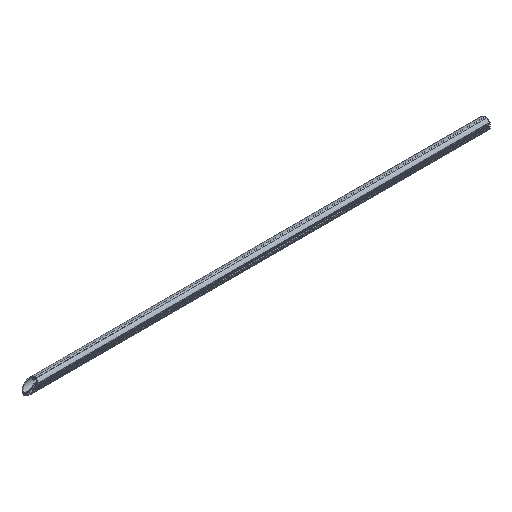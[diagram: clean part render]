
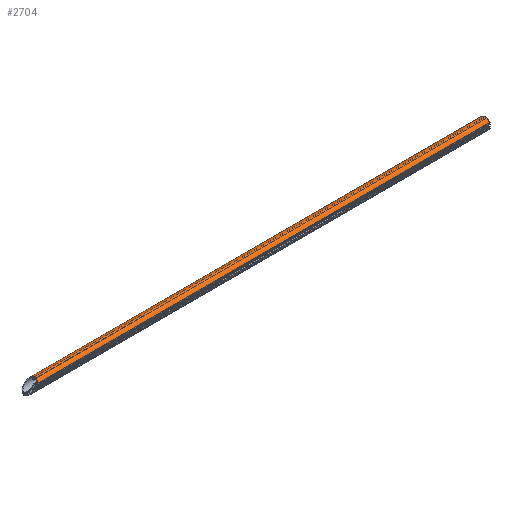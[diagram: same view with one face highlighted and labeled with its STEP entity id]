
A CAD part, isometric view. The second image highlights one B-rep face of the part: STEP entity #2704.
In plain terms, the highlighted cylindrical face has radius 25 mm (diameter 50 mm), a partial arc.
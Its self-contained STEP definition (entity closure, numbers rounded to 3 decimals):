
#1296=CIRCLE('',#2572,25.);
#1326=ELLIPSE('',#2571,35.355,25.);
#1356=ORIENTED_EDGE('',*,*,#1824,.F.);
#1357=ORIENTED_EDGE('',*,*,#1825,.T.);
#1358=ORIENTED_EDGE('',*,*,#1826,.T.);
#1359=ORIENTED_EDGE('',*,*,#1827,.T.);
#1608=VECTOR('',#2044,1.);
#1609=VECTOR('',#2047,1.);
#1674=LINE('',#2319,#1608);
#1675=LINE('',#2323,#1609);
#1740=VERTEX_POINT('',#2317);
#1741=VERTEX_POINT('',#2318);
#1742=VERTEX_POINT('',#2320);
#1743=VERTEX_POINT('',#2322);
#1824=EDGE_CURVE('',#1740,#1741,#1674,.T.);
#1825=EDGE_CURVE('',#1740,#1742,#1326,.T.);
#1826=EDGE_CURVE('',#1742,#1743,#1675,.T.);
#1827=EDGE_CURVE('',#1743,#1741,#1296,.T.);
#1950=EDGE_LOOP('',(#1356,#1357,#1358,#1359));
#1996=FACE_BOUND('',#1950,.T.);
#2042=DIRECTION('',(1.,0.,0.));
#2043=DIRECTION('',(0.,-0.86,-0.51));
#2044=DIRECTION('',(2130.257,0.,0.));
#2045=DIRECTION('',(0.707,0.,-0.707));
#2046=DIRECTION('',(-0.707,0.,-0.707));
#2047=DIRECTION('',(2104.743,0.,0.));
#2048=DIRECTION('',(-1.,0.,0.));
#2049=DIRECTION('',(0.,-21.5,-12.757));
#2316=CARTESIAN_POINT('',(0.,-25.,25.));
#2317=CARTESIAN_POINT('',(969.743,-46.5,12.243));
#2318=CARTESIAN_POINT('',(3100.,-46.5,12.243));
#2319=CARTESIAN_POINT('',(969.743,-46.5,12.243));
#2320=CARTESIAN_POINT('',(995.257,-46.5,37.757));
#2321=CARTESIAN_POINT('',(982.5,-25.,25.));
#2322=CARTESIAN_POINT('',(3100.,-46.5,37.757));
#2323=CARTESIAN_POINT('',(995.257,-46.5,37.757));
#2324=CARTESIAN_POINT('',(3100.,-25.,25.));
#2570=AXIS2_PLACEMENT_3D('',#2316,#2042,#2043);
#2571=AXIS2_PLACEMENT_3D('',#2321,#2045,#2046);
#2572=AXIS2_PLACEMENT_3D('',#2324,#2048,#2049);
#2674=CYLINDRICAL_SURFACE('',#2570,25.);
#2704=ADVANCED_FACE('',(#1996),#2674,.T.);
